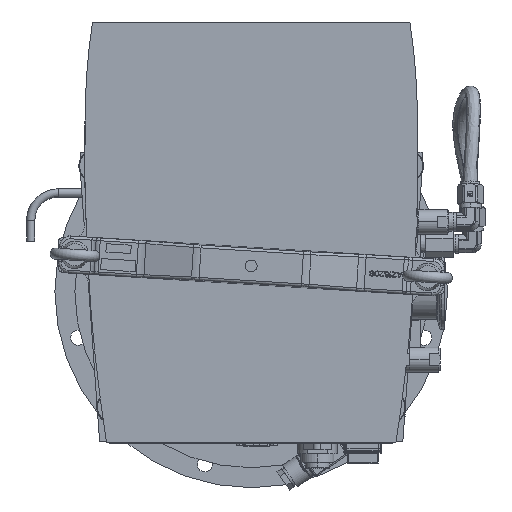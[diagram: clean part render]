
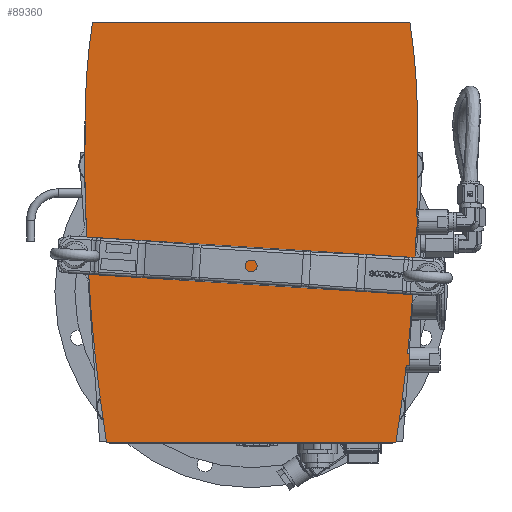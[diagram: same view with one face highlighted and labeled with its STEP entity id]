
A CAD part, front view. The second image highlights one B-rep face of the part: STEP entity #89360.
In plain terms, the highlighted planar face has unit normal (0, -1, 0).
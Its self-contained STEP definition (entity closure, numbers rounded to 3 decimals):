
#8896=CARTESIAN_POINT('',(120.156,-133.95,54.573));
#8906=CARTESIAN_POINT('',(119.869,-133.95,46.327));
#8995=DIRECTION('',(-1.,0.,0.));
#8996=VECTOR('',#8995,1.131);
#8997=CARTESIAN_POINT('',(121.,-133.95,46.327));
#8998=LINE('',#8997,#8996);
#9013=DIRECTION('',(0.,0.,-1.));
#9014=VECTOR('',#9013,8.246);
#9015=CARTESIAN_POINT('',(121.,-133.95,54.573));
#9016=LINE('',#9015,#9014);
#9086=CARTESIAN_POINT('',(-1177.573,-133.95,90.45));
#9087=DIRECTION('',(0.,-1.,0.));
#9088=DIRECTION('',(0.995,0.,-0.105));
#9089=AXIS2_PLACEMENT_3D('',#9086,#9087,#9088);
#9091=DIRECTION('',(-1.,0.,0.));
#9092=VECTOR('',#9091,1.631);
#9093=CARTESIAN_POINT('',(115.,-133.95,-45.427));
#9094=LINE('',#9093,#9092);
#9095=CARTESIAN_POINT('',(-1177.573,-133.95,90.45));
#9096=DIRECTION('',(0.,-1.,0.));
#9097=DIRECTION('',(0.988,0.,-0.154));
#9098=AXIS2_PLACEMENT_3D('',#9095,#9096,#9097);
#9100=CARTESIAN_POINT('',(104.572,-133.95,-109.05));
#9101=DIRECTION('',(0.,-1.,0.));
#9102=DIRECTION('',(0.,0.,-1.));
#9103=AXIS2_PLACEMENT_3D('',#9100,#9101,#9102);
#9105=DIRECTION('',(1.,0.,0.));
#9106=VECTOR('',#9105,209.144);
#9107=CARTESIAN_POINT('',(-104.572,-133.95,-109.55));
#9108=LINE('',#9107,#9106);
#9109=CARTESIAN_POINT('',(-104.572,-133.95,-109.05));
#9110=DIRECTION('',(0.,-1.,0.));
#9111=DIRECTION('',(-0.988,0.,-0.154));
#9112=AXIS2_PLACEMENT_3D('',#9109,#9110,#9111);
#9114=CARTESIAN_POINT('',(1177.573,-133.95,90.45));
#9115=DIRECTION('',(0.,-1.,0.));
#9116=DIRECTION('',(-0.997,0.,-0.084));
#9117=AXIS2_PLACEMENT_3D('',#9114,#9115,#9116);
#9119=CARTESIAN_POINT('',(1281.834,-133.95,99.195));
#9120=DIRECTION('',(0.,-1.,0.));
#9121=DIRECTION('',(-1.,0.,0.028));
#9122=AXIS2_PLACEMENT_3D('',#9119,#9120,#9121);
#9124=CARTESIAN_POINT('',(340.523,-133.95,125.45));
#9125=DIRECTION('',(0.,-1.,0.));
#9126=DIRECTION('',(-0.988,0.,0.152));
#9127=AXIS2_PLACEMENT_3D('',#9124,#9125,#9126);
#9129=DIRECTION('',(-1.,0.,0.));
#9130=VECTOR('',#9129,230.309);
#9131=CARTESIAN_POINT('',(115.155,-133.95,195.45));
#9132=LINE('',#9131,#9130);
#9133=CARTESIAN_POINT('',(-340.523,-133.95,125.45));
#9134=DIRECTION('',(0.,-1.,0.));
#9135=DIRECTION('',(1.,0.,0.028));
#9136=AXIS2_PLACEMENT_3D('',#9133,#9134,#9135);
#9138=CARTESIAN_POINT('',(-1282.134,-133.95,99.203));
#9139=DIRECTION('',(0.,-1.,0.));
#9140=DIRECTION('',(0.999,0.,-0.032));
#9141=AXIS2_PLACEMENT_3D('',#9138,#9139,#9140);
#9143=DIRECTION('',(-1.,0.,0.));
#9144=VECTOR('',#9143,0.844);
#9145=CARTESIAN_POINT('',(121.,-133.95,54.573));
#9146=LINE('',#9145,#9144);
#9147=CARTESIAN_POINT('',(-1282.134,-133.95,99.203));
#9148=DIRECTION('',(0.,-1.,0.));
#9149=DIRECTION('',(0.997,0.,-0.083));
#9150=AXIS2_PLACEMENT_3D('',#9147,#9148,#9149);
#9173=CARTESIAN_POINT('',(113.369,-133.95,-45.427));
#9179=CARTESIAN_POINT('',(112.474,-133.95,-53.673));
#9220=DIRECTION('',(-1.,0.,0.));
#9221=VECTOR('',#9220,2.526);
#9222=CARTESIAN_POINT('',(115.,-133.95,-53.673));
#9223=LINE('',#9222,#9221);
#9315=DIRECTION('',(0.,0.,-1.));
#9316=VECTOR('',#9315,8.246);
#9317=CARTESIAN_POINT('',(115.,-133.95,-45.427));
#9318=LINE('',#9317,#9316);
#75085=CARTESIAN_POINT('',(-115.155,-133.95,195.45));
#75086=CARTESIAN_POINT('',(-120.321,-133.95,138.304));
#75087=VERTEX_POINT('',#75085);
#75088=VERTEX_POINT('',#75086);
#75089=CARTESIAN_POINT('',(-115.958,-133.95,-18.043));
#75090=VERTEX_POINT('',#75089);
#75091=CARTESIAN_POINT('',(-105.066,-133.95,-109.127));
#75092=VERTEX_POINT('',#75091);
#75093=CARTESIAN_POINT('',(-104.572,-133.95,-109.55));
#75094=VERTEX_POINT('',#75093);
#75095=CARTESIAN_POINT('',(104.572,-133.95,-109.55));
#75096=VERTEX_POINT('',#75095);
#75097=CARTESIAN_POINT('',(105.066,-133.95,-109.127));
#75098=VERTEX_POINT('',#75097);
#75099=CARTESIAN_POINT('',(120.321,-133.95,138.296));
#75100=CARTESIAN_POINT('',(115.155,-133.95,195.45));
#75101=VERTEX_POINT('',#75099);
#75102=VERTEX_POINT('',#75100);
#75115=CARTESIAN_POINT('',(115.975,-133.95,-17.837));
#75116=VERTEX_POINT('',#75115);
#75143=CARTESIAN_POINT('',(121.,-133.95,54.573));
#75145=VERTEX_POINT('',#75143);
#75146=CARTESIAN_POINT('',(121.,-133.95,46.327));
#75147=VERTEX_POINT('',#75146);
#75152=VERTEX_POINT('',#8896);
#75153=VERTEX_POINT('',#8906);
#75159=CARTESIAN_POINT('',(115.,-133.95,-45.427));
#75160=CARTESIAN_POINT('',(115.,-133.95,-53.673));
#75161=VERTEX_POINT('',#75159);
#75162=VERTEX_POINT('',#75160);
#75167=VERTEX_POINT('',#9173);
#75168=VERTEX_POINT('',#9179);
#89322=CARTESIAN_POINT('',(0.,-133.95,196.45));
#89323=DIRECTION('',(0.,-1.,0.));
#89324=DIRECTION('',(1.,0.,0.));
#89325=AXIS2_PLACEMENT_3D('',#89322,#89323,#89324);
#89326=PLANE('',#89325);
#89328=ORIENTED_EDGE('',*,*,#89327,.F.);
#89330=ORIENTED_EDGE('',*,*,#89329,.F.);
#89332=ORIENTED_EDGE('',*,*,#89331,.T.);
#89334=ORIENTED_EDGE('',*,*,#89333,.T.);
#89336=ORIENTED_EDGE('',*,*,#89335,.F.);
#89338=ORIENTED_EDGE('',*,*,#89337,.F.);
#89340=ORIENTED_EDGE('',*,*,#89339,.F.);
#89342=ORIENTED_EDGE('',*,*,#89341,.F.);
#89344=ORIENTED_EDGE('',*,*,#89343,.F.);
#89346=ORIENTED_EDGE('',*,*,#89345,.F.);
#89348=ORIENTED_EDGE('',*,*,#89347,.F.);
#89350=ORIENTED_EDGE('',*,*,#89349,.F.);
#89352=ORIENTED_EDGE('',*,*,#89351,.F.);
#89353=ORIENTED_EDGE('',*,*,#89098,.F.);
#89354=ORIENTED_EDGE('',*,*,#89317,.F.);
#89355=ORIENTED_EDGE('',*,*,#89252,.T.);
#89356=ORIENTED_EDGE('',*,*,#89237,.T.);
#89357=ORIENTED_EDGE('',*,*,#89110,.F.);
#89358=EDGE_LOOP('',(#89328,#89330,#89332,#89334,#89336,#89338,#89340,#89342,
#89344,#89346,#89348,#89350,#89352,#89353,#89354,#89355,#89356,#89357));
#89359=FACE_OUTER_BOUND('',#89358,.F.);
#89360=ADVANCED_FACE('',(#89359),#89326,.T.);
#9090=CIRCLE('',#9089,1298.073);
#9099=CIRCLE('',#9098,1298.073);
#9104=CIRCLE('',#9103,0.5);
#9113=CIRCLE('',#9112,0.5);
#9118=CIRCLE('',#9117,1298.073);
#9123=CIRCLE('',#9122,1402.7);
#9128=CIRCLE('',#9127,461.023);
#9137=CIRCLE('',#9136,461.023);
#9142=CIRCLE('',#9141,1403.);
#9151=CIRCLE('',#9150,1403.);
#89098=EDGE_CURVE('',#75152,#75101,#9142,.T.);
#89110=EDGE_CURVE('',#75116,#75153,#9151,.T.);
#89237=EDGE_CURVE('',#75147,#75153,#8998,.T.);
#89252=EDGE_CURVE('',#75145,#75147,#9016,.T.);
#89317=EDGE_CURVE('',#75145,#75152,#9146,.T.);
#89327=EDGE_CURVE('',#75167,#75116,#9090,.T.);
#89329=EDGE_CURVE('',#75161,#75167,#9094,.T.);
#89331=EDGE_CURVE('',#75161,#75162,#9318,.T.);
#89333=EDGE_CURVE('',#75162,#75168,#9223,.T.);
#89335=EDGE_CURVE('',#75098,#75168,#9099,.T.);
#89337=EDGE_CURVE('',#75096,#75098,#9104,.T.);
#89339=EDGE_CURVE('',#75094,#75096,#9108,.T.);
#89341=EDGE_CURVE('',#75092,#75094,#9113,.T.);
#89343=EDGE_CURVE('',#75090,#75092,#9118,.T.);
#89345=EDGE_CURVE('',#75088,#75090,#9123,.T.);
#89347=EDGE_CURVE('',#75087,#75088,#9128,.T.);
#89349=EDGE_CURVE('',#75102,#75087,#9132,.T.);
#89351=EDGE_CURVE('',#75101,#75102,#9137,.T.);
